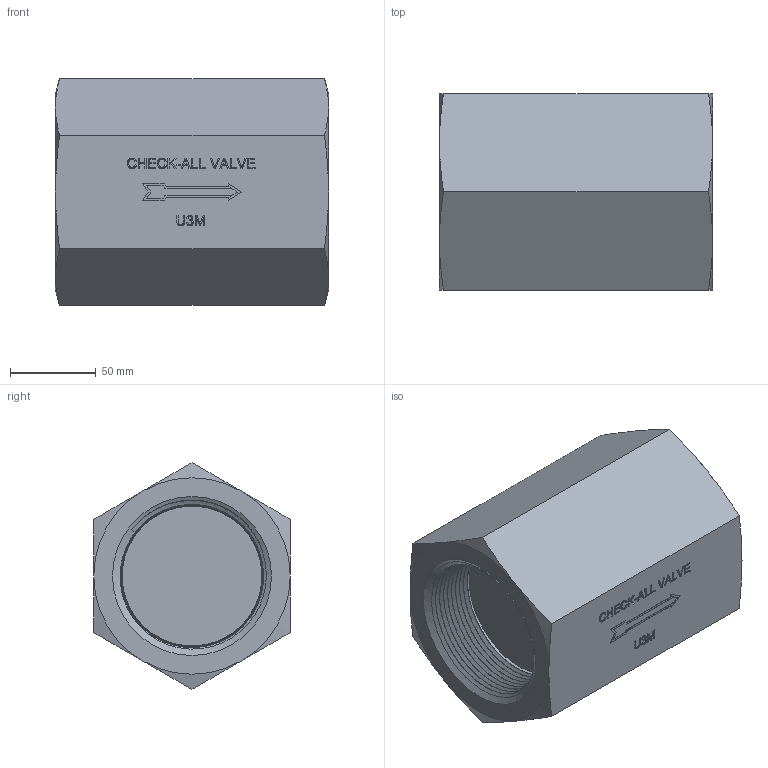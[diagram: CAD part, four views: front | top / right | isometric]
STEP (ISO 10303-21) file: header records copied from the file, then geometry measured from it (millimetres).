
FILE_DESCRIPTION( ( 'Unknown' ), '1' );
FILE_NAME( 'Y:/ENGR/3D Solid Edge Models/U3/U3-PRT/U3M.stp', 'Unknown', ( 'Unknown' ), ( 'Unknown' ), 'PSStep 14.0', 'Unknown', ' ' );
FILE_SCHEMA( ( 'AUTOMOTIVE_DESIGN { 1 0 10303 214 1 1 1 1 }' ) );
Length unit declared in the file: inch
Products named in the file (1): 1
Bounding box: 158.88 x 114.3 x 131.98 mm (x, y, z)
Volume: 1429698 mm3; surface area: 114074.8 mm2
Topology: 1 solids, 1 shells, 225 faces, 586 edges, 386 vertices
Faces by surface type: extrusion 139, plane 57, cone 16, bspline 13
Entity records: 18043 total; most frequent: CARTESIAN_POINT 11170, ORIENTED_EDGE 1164, DIRECTION 671, EDGE_CURVE 582, VECTOR 491, VERTEX_POINT 384, B_SPLINE_CURVE_WITH_KNOTS 353, LINE 352
